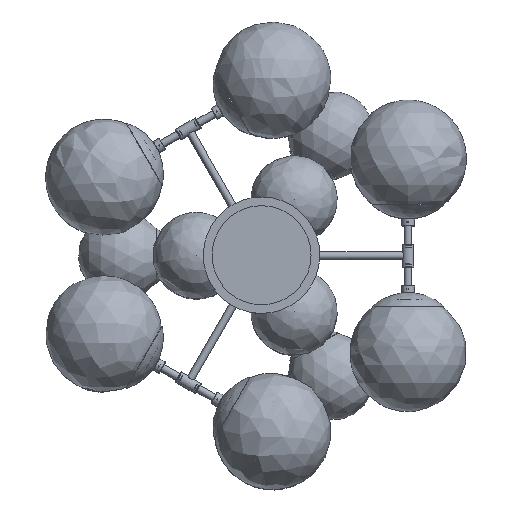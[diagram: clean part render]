
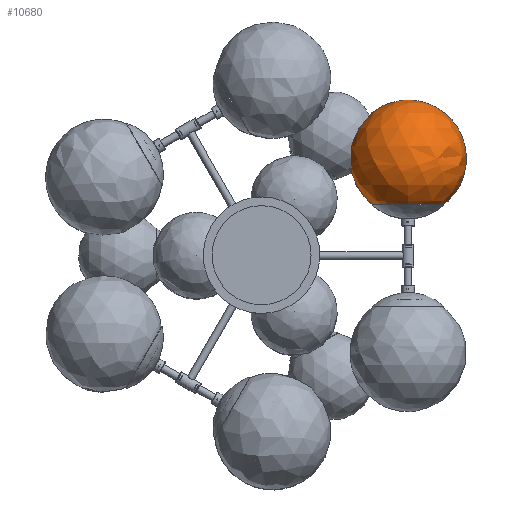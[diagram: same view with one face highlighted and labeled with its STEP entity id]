
A CAD part, top view. The second image highlights one B-rep face of the part: STEP entity #10680.
In plain terms, the highlighted free-form (B-spline) face has degree [2, 2] with [5, 9] control points.
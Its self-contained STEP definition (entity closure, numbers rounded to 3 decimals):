
#45=(
BOUNDED_SURFACE()
B_SPLINE_SURFACE(2,2,((#20797,#20798,#20799,#20800,#20801,#20802,#20803,
#20804,#20805),(#20806,#20807,#20808,#20809,#20810,#20811,#20812,#20813,
#20814),(#20815,#20816,#20817,#20818,#20819,#20820,#20821,#20822,#20823),
(#20824,#20825,#20826,#20827,#20828,#20829,#20830,#20831,#20832),(#20833,
#20834,#20835,#20836,#20837,#20838,#20839,#20840,#20841)),.UNSPECIFIED.,
 .F.,.T.,.F.)
B_SPLINE_SURFACE_WITH_KNOTS((3,2,3),(3,2,2,2,3),(-1.156,0.208,
1.572),(-3.142,-1.571,0.,1.571,
3.142),.UNSPECIFIED.)
GEOMETRIC_REPRESENTATION_ITEM()
RATIONAL_B_SPLINE_SURFACE(((1.,0.707,1.,0.707,1.,
0.707,1.,0.707,1.),(0.776,0.549,
0.776,0.549,0.776,0.549,
0.776,0.549,0.776),(1.,0.707,
1.,0.707,1.,0.707,1.,0.707,1.),(0.776,
0.549,0.776,0.549,0.776,
0.549,0.776,0.549,0.776),
(1.,0.707,1.,0.707,1.,0.707,1.,0.707,
1.)))
REPRESENTATION_ITEM('')
SURFACE()
);
#1629=FACE_OUTER_BOUND('',#2591,.T.);
#2591=EDGE_LOOP('',(#8990,#8991,#8992));
#4403=CIRCLE('',#12273,40.391);
#4405=CIRCLE('',#12275,100.);
#5335=VERTEX_POINT('',#20794);
#5336=VERTEX_POINT('',#20842);
#6598=EDGE_CURVE('',#5335,#5335,#4403,.T.);
#6600=EDGE_CURVE('',#5336,#5335,#4405,.T.);
#8990=ORIENTED_EDGE('',*,*,#6600,.T.);
#8991=ORIENTED_EDGE('',*,*,#6598,.T.);
#8992=ORIENTED_EDGE('',*,*,#6600,.F.);
#10680=ADVANCED_FACE('',(#1629),#45,.F.);
#12273=AXIS2_PLACEMENT_3D('',#20795,#15501,#15502);
#12275=AXIS2_PLACEMENT_3D('',#20843,#15505,#15506);
#15501=DIRECTION('center_axis',(0.,1.,0.));
#15502=DIRECTION('ref_axis',(0.,0.,1.));
#15505=DIRECTION('center_axis',(0.,0.,
-1.));
#15506=DIRECTION('ref_axis',(1.,0.,0.));
#20794=CARTESIAN_POINT('',(292.131,75.771,648.615));
#20795=CARTESIAN_POINT('Origin',(251.74,75.771,648.615));
#20797=CARTESIAN_POINT('Ctrl Pts',(292.131,75.771,648.615));
#20798=CARTESIAN_POINT('Ctrl Pts',(292.131,75.771,608.224));
#20799=CARTESIAN_POINT('Ctrl Pts',(251.74,75.771,608.224));
#20800=CARTESIAN_POINT('Ctrl Pts',(211.348,75.771,608.224));
#20801=CARTESIAN_POINT('Ctrl Pts',(211.348,75.771,648.615));
#20802=CARTESIAN_POINT('Ctrl Pts',(211.348,75.771,689.007));
#20803=CARTESIAN_POINT('Ctrl Pts',(251.74,75.771,689.007));
#20804=CARTESIAN_POINT('Ctrl Pts',(292.131,75.771,689.007));
#20805=CARTESIAN_POINT('Ctrl Pts',(292.131,75.771,648.615));
#20806=CARTESIAN_POINT('Ctrl Pts',(366.454,108.48,648.615));
#20807=CARTESIAN_POINT('Ctrl Pts',(366.454,108.48,533.901));
#20808=CARTESIAN_POINT('Ctrl Pts',(251.74,108.48,533.901));
#20809=CARTESIAN_POINT('Ctrl Pts',(137.025,108.48,533.901));
#20810=CARTESIAN_POINT('Ctrl Pts',(137.025,108.48,648.615));
#20811=CARTESIAN_POINT('Ctrl Pts',(137.025,108.48,763.33));
#20812=CARTESIAN_POINT('Ctrl Pts',(251.74,108.48,763.33));
#20813=CARTESIAN_POINT('Ctrl Pts',(366.454,108.48,763.33));
#20814=CARTESIAN_POINT('Ctrl Pts',(366.454,108.48,648.615));
#20815=CARTESIAN_POINT('Ctrl Pts',(349.698,187.935,648.615));
#20816=CARTESIAN_POINT('Ctrl Pts',(349.698,187.935,550.657));
#20817=CARTESIAN_POINT('Ctrl Pts',(251.74,187.935,550.657));
#20818=CARTESIAN_POINT('Ctrl Pts',(153.781,187.935,550.657));
#20819=CARTESIAN_POINT('Ctrl Pts',(153.781,187.935,648.615));
#20820=CARTESIAN_POINT('Ctrl Pts',(153.781,187.935,746.574));
#20821=CARTESIAN_POINT('Ctrl Pts',(251.74,187.935,746.574));
#20822=CARTESIAN_POINT('Ctrl Pts',(349.698,187.935,746.574));
#20823=CARTESIAN_POINT('Ctrl Pts',(349.698,187.935,648.615));
#20824=CARTESIAN_POINT('Ctrl Pts',(332.942,267.39,648.615));
#20825=CARTESIAN_POINT('Ctrl Pts',(332.942,267.39,567.413));
#20826=CARTESIAN_POINT('Ctrl Pts',(251.74,267.39,567.413));
#20827=CARTESIAN_POINT('Ctrl Pts',(170.537,267.39,567.413));
#20828=CARTESIAN_POINT('Ctrl Pts',(170.537,267.39,648.615));
#20829=CARTESIAN_POINT('Ctrl Pts',(170.537,267.39,729.818));
#20830=CARTESIAN_POINT('Ctrl Pts',(251.74,267.39,729.818));
#20831=CARTESIAN_POINT('Ctrl Pts',(332.942,267.39,729.818));
#20832=CARTESIAN_POINT('Ctrl Pts',(332.942,267.39,648.615));
#20833=CARTESIAN_POINT('Ctrl Pts',(251.74,267.3,648.615));
#20834=CARTESIAN_POINT('Ctrl Pts',(251.74,267.3,648.615));
#20835=CARTESIAN_POINT('Ctrl Pts',(251.74,267.3,648.615));
#20836=CARTESIAN_POINT('Ctrl Pts',(251.74,267.3,648.615));
#20837=CARTESIAN_POINT('Ctrl Pts',(251.74,267.3,648.615));
#20838=CARTESIAN_POINT('Ctrl Pts',(251.74,267.3,648.615));
#20839=CARTESIAN_POINT('Ctrl Pts',(251.74,267.3,648.615));
#20840=CARTESIAN_POINT('Ctrl Pts',(251.74,267.3,648.615));
#20841=CARTESIAN_POINT('Ctrl Pts',(251.74,267.3,648.615));
#20842=CARTESIAN_POINT('',(251.74,267.3,648.615));
#20843=CARTESIAN_POINT('Origin',(251.85,167.3,648.615));
